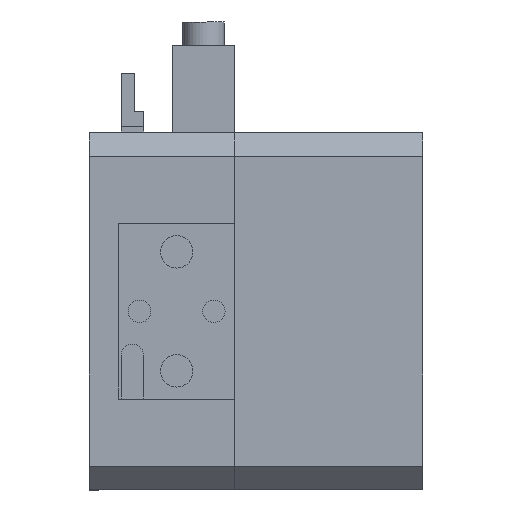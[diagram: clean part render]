
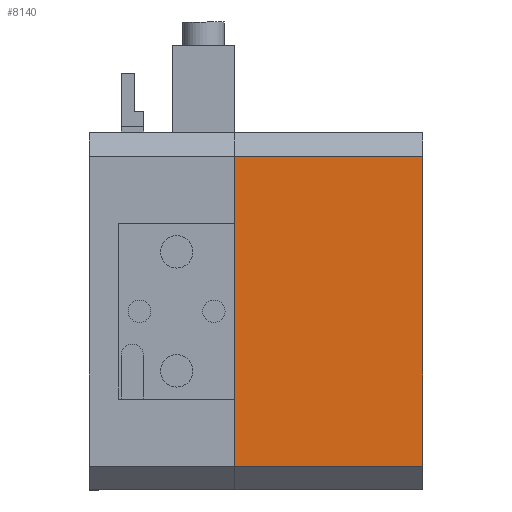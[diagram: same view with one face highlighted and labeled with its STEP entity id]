
A CAD part, left-side view. The second image highlights one B-rep face of the part: STEP entity #8140.
In plain terms, the highlighted planar face has unit normal (-1, 0, 0).
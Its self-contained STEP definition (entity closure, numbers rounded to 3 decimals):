
#351 = ORIENTED_EDGE ( 'NONE', *, *, #3718, .F. ) ;
#579 = VERTEX_POINT ( 'NONE', #2499 ) ;
#840 = DIRECTION ( 'NONE',  ( 0., -1., 0. ) ) ;
#945 = AXIS2_PLACEMENT_3D ( 'NONE', #5926, #2151, #7441 ) ;
#1010 = LINE ( 'NONE', #4765, #9095 ) ;
#1317 = EDGE_CURVE ( 'NONE', #7920, #4056, #4966, .T. ) ;
#1369 = PLANE ( 'NONE',  #945 ) ;
#1435 = CARTESIAN_POINT ( 'NONE',  ( -3.44, 34.81, 35.215 ) ) ;
#1606 = ORIENTED_EDGE ( 'NONE', *, *, #1317, .T. ) ;
#2151 = DIRECTION ( 'NONE',  ( -1., 0., 0. ) ) ;
#2499 = CARTESIAN_POINT ( 'NONE',  ( -3.44, 1.79, -0.396 ) ) ;
#3718 = EDGE_CURVE ( 'NONE', #4748, #579, #1010, .T. ) ;
#3984 = VECTOR ( 'NONE', #5420, 1000. ) ;
#4056 = VERTEX_POINT ( 'NONE', #8863 ) ;
#4546 = EDGE_CURVE ( 'NONE', #7920, #4748, #6682, .T. ) ;
#4565 = FACE_OUTER_BOUND ( 'NONE', #5040, .T. ) ;
#4660 = CARTESIAN_POINT ( 'NONE',  ( -3.44, 1.79, -0.396 ) ) ;
#4666 = VECTOR ( 'NONE', #840, 1000. ) ;
#4748 = VERTEX_POINT ( 'NONE', #7850 ) ;
#4765 = CARTESIAN_POINT ( 'NONE',  ( -3.44, 1.79, 35.215 ) ) ;
#4966 = LINE ( 'NONE', #1435, #6756 ) ;
#5040 = EDGE_LOOP ( 'NONE', ( #8620, #1606, #6595, #351 ) ) ;
#5364 = CARTESIAN_POINT ( 'NONE',  ( -3.44, 37.35, 19.708 ) ) ;
#5420 = DIRECTION ( 'NONE',  ( 0., -1., 0. ) ) ;
#5926 = CARTESIAN_POINT ( 'NONE',  ( -3.44, 34.81, 35.215 ) ) ;
#6595 = ORIENTED_EDGE ( 'NONE', *, *, #9347, .T. ) ;
#6682 = LINE ( 'NONE', #5364, #4666 ) ;
#6756 = VECTOR ( 'NONE', #9803, 1000. ) ;
#7055 = DIRECTION ( 'NONE',  ( 0., 0., -1. ) ) ;
#7441 = DIRECTION ( 'NONE',  ( 0., 0., 1. ) ) ;
#7850 = CARTESIAN_POINT ( 'NONE',  ( -3.44, 1.79, 19.708 ) ) ;
#7920 = VERTEX_POINT ( 'NONE', #8719 ) ;
#8140 = ADVANCED_FACE ( 'NONE', ( #4565 ), #1369, .T. ) ;
#8620 = ORIENTED_EDGE ( 'NONE', *, *, #4546, .F. ) ;
#8719 = CARTESIAN_POINT ( 'NONE',  ( -3.44, 34.81, 19.708 ) ) ;
#8863 = CARTESIAN_POINT ( 'NONE',  ( -3.44, 34.81, -0.396 ) ) ;
#9095 = VECTOR ( 'NONE', #7055, 1000. ) ;
#9347 = EDGE_CURVE ( 'NONE', #4056, #579, #9805, .T. ) ;
#9803 = DIRECTION ( 'NONE',  ( 0., 0., -1. ) ) ;
#9805 = LINE ( 'NONE', #4660, #3984 ) ;
